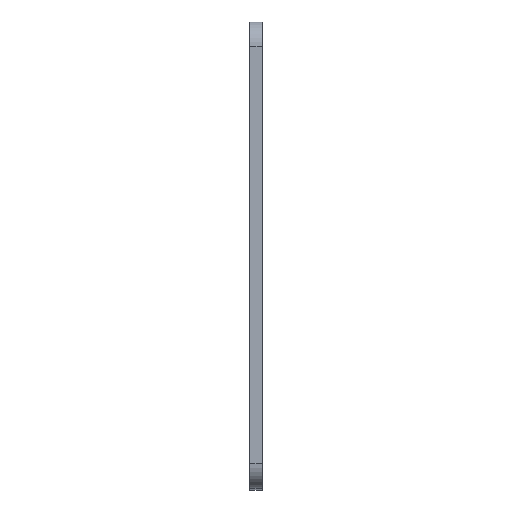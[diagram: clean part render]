
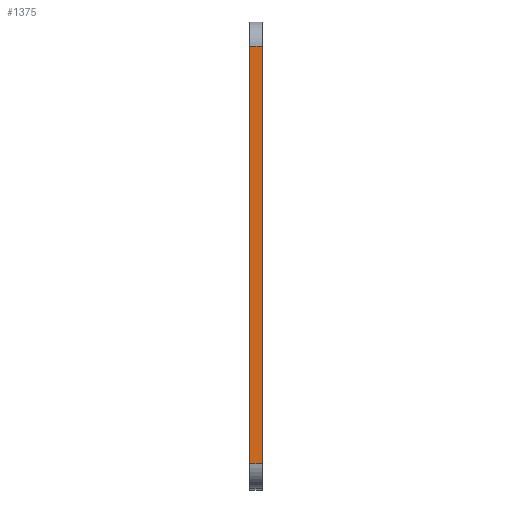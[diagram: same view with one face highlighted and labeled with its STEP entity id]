
A CAD part, top view. The second image highlights one B-rep face of the part: STEP entity #1375.
In plain terms, the highlighted planar face has unit normal (0, 0, 1).
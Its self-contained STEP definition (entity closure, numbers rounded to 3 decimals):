
#395=CARTESIAN_POINT('',(-10.908,-5.577,222.));
#396=VERTEX_POINT('',#395);
#406=CARTESIAN_POINT('',(-10.908,80.423,222.));
#407=VERTEX_POINT('',#406);
#408=CARTESIAN_POINT('',(-10.908,-5.577,222.));
#409=DIRECTION('',(0.0,1.0,0.0));
#410=VECTOR('',#409,86.0);
#411=LINE('',#408,#410);
#412=EDGE_CURVE('',#396,#407,#411,.T.);
#1334=CARTESIAN_POINT('',(-8.408,-5.577,222.));
#1335=VERTEX_POINT('',#1334);
#1343=CARTESIAN_POINT('',(-8.408,-5.577,222.));
#1344=DIRECTION('',(-1.0,0.0,0.0));
#1345=VECTOR('',#1344,2.5);
#1346=LINE('',#1343,#1345);
#1347=EDGE_CURVE('',#1335,#396,#1346,.T.);
#1352=CARTESIAN_POINT('',(-9.658,37.423,222.));
#1353=DIRECTION('',(0.0,0.0,1.0));
#1354=DIRECTION('',(1.0,0.0,0.0));
#1355=AXIS2_PLACEMENT_3D('',#1352,#1353,#1354);
#1356=PLANE('',#1355);
#1357=ORIENTED_EDGE('',*,*,#1347,.F.);
#1358=CARTESIAN_POINT('',(-8.408,80.423,222.));
#1359=VERTEX_POINT('',#1358);
#1360=CARTESIAN_POINT('',(-8.408,80.423,222.));
#1361=DIRECTION('',(0.0,-1.0,0.0));
#1362=VECTOR('',#1361,86.);
#1363=LINE('',#1360,#1362);
#1364=EDGE_CURVE('',#1359,#1335,#1363,.T.);
#1365=ORIENTED_EDGE('',*,*,#1364,.F.);
#1366=CARTESIAN_POINT('',(-10.908,80.423,222.));
#1367=DIRECTION('',(1.0,0.0,0.0));
#1368=VECTOR('',#1367,2.5);
#1369=LINE('',#1366,#1368);
#1370=EDGE_CURVE('',#407,#1359,#1369,.T.);
#1371=ORIENTED_EDGE('',*,*,#1370,.F.);
#1372=ORIENTED_EDGE('',*,*,#412,.F.);
#1373=EDGE_LOOP('',(#1357,#1365,#1371,#1372));
#1374=FACE_OUTER_BOUND('',#1373,.T.);
#1375=ADVANCED_FACE('',(#1374),#1356,.T.);
